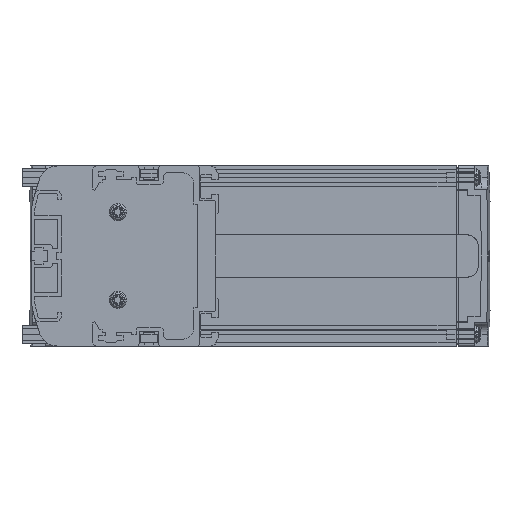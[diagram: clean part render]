
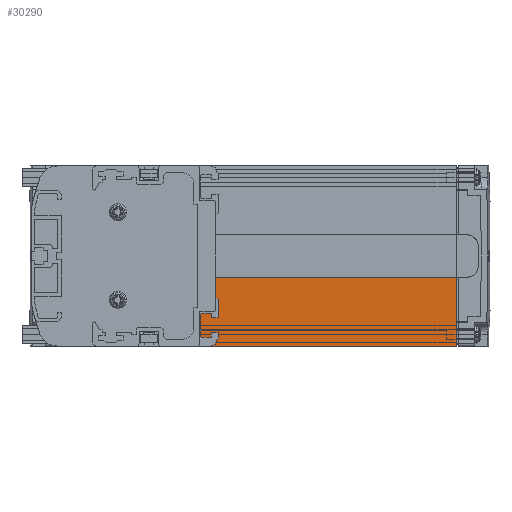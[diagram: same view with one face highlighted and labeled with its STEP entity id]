
A CAD part, left-side view. The second image highlights one B-rep face of the part: STEP entity #30290.
In plain terms, the highlighted planar face has unit normal (-1, 0, 0).
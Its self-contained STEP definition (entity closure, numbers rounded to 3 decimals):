
#3525=DIRECTION('',(0.,0.,1.));
#3526=VECTOR('',#3525,13.9);
#3527=CARTESIAN_POINT('',(3.,1.,-23.));
#3528=LINE('',#3527,#3526);
#4169=CARTESIAN_POINT('',(3.,2.,-23.));
#4170=DIRECTION('',(-1.,0.,0.));
#4171=DIRECTION('',(0.,0.,-1.));
#4172=AXIS2_PLACEMENT_3D('',#4169,#4170,#4171);
#4182=DIRECTION('',(0.,0.,1.));
#4183=VECTOR('',#4182,29.9);
#4184=CARTESIAN_POINT('',(3.,-103.,-39.));
#4185=LINE('',#4184,#4183);
#4202=DIRECTION('',(0.,1.,0.));
#4203=VECTOR('',#4202,104.);
#4204=CARTESIAN_POINT('',(3.,-103.,-9.1));
#4205=LINE('',#4204,#4203);
#8468=DIRECTION('',(0.,1.,0.));
#8469=VECTOR('',#8468,112.);
#8470=CARTESIAN_POINT('',(3.,-103.,-39.));
#8471=LINE('',#8470,#8469);
#9663=CARTESIAN_POINT('',(3.,9.,-38.));
#9664=DIRECTION('',(-1.,0.,0.));
#9665=DIRECTION('',(0.,0.,-1.));
#9666=AXIS2_PLACEMENT_3D('',#9663,#9664,#9665);
#9676=DIRECTION('',(0.,0.,-1.));
#9677=VECTOR('',#9676,14.);
#9678=CARTESIAN_POINT('',(3.,8.,-24.));
#9679=LINE('',#9678,#9677);
#9680=DIRECTION('',(0.,1.,0.));
#9681=VECTOR('',#9680,6.);
#9682=CARTESIAN_POINT('',(3.,2.,-24.));
#9683=LINE('',#9682,#9681);
#19714=CARTESIAN_POINT('',(3.,-103.,-39.));
#19715=VERTEX_POINT('',#19714);
#19716=CARTESIAN_POINT('',(3.,-103.,-9.1));
#19717=VERTEX_POINT('',#19716);
#24107=CARTESIAN_POINT('',(3.,1.,-23.));
#24108=CARTESIAN_POINT('',(3.,1.,-9.1));
#24109=VERTEX_POINT('',#24107);
#24110=VERTEX_POINT('',#24108);
#24155=CARTESIAN_POINT('',(3.,9.,-39.));
#24156=CARTESIAN_POINT('',(3.,8.,-38.));
#24157=VERTEX_POINT('',#24155);
#24158=VERTEX_POINT('',#24156);
#24159=CARTESIAN_POINT('',(3.,8.,-24.));
#24160=VERTEX_POINT('',#24159);
#24161=CARTESIAN_POINT('',(3.,2.,-24.));
#24162=VERTEX_POINT('',#24161);
#30269=CARTESIAN_POINT('',(3.,-18.,-24.05));
#30270=DIRECTION('',(1.,0.,0.));
#30271=DIRECTION('',(0.,0.,-1.));
#30272=AXIS2_PLACEMENT_3D('',#30269,#30270,#30271);
#30273=PLANE('',#30272);
#30274=ORIENTED_EDGE('',*,*,#27705,.T.);
#30276=ORIENTED_EDGE('',*,*,#30275,.F.);
#30278=ORIENTED_EDGE('',*,*,#30277,.F.);
#30280=ORIENTED_EDGE('',*,*,#30279,.T.);
#30282=ORIENTED_EDGE('',*,*,#30281,.T.);
#30284=ORIENTED_EDGE('',*,*,#30283,.F.);
#30286=ORIENTED_EDGE('',*,*,#30285,.F.);
#30287=ORIENTED_EDGE('',*,*,#30260,.T.);
#30288=EDGE_LOOP('',(#30274,#30276,#30278,#30280,#30282,#30284,#30286,#30287));
#30289=FACE_OUTER_BOUND('',#30288,.F.);
#30290=ADVANCED_FACE('',(#30289),#30273,.F.);
#4173=CIRCLE('',#4172,1.);
#9667=CIRCLE('',#9666,1.);
#27705=EDGE_CURVE('',#24109,#24110,#3528,.T.);
#30260=EDGE_CURVE('',#24162,#24109,#4173,.T.);
#30275=EDGE_CURVE('',#19717,#24110,#4205,.T.);
#30277=EDGE_CURVE('',#19715,#19717,#4185,.T.);
#30279=EDGE_CURVE('',#19715,#24157,#8471,.T.);
#30281=EDGE_CURVE('',#24157,#24158,#9667,.T.);
#30283=EDGE_CURVE('',#24160,#24158,#9679,.T.);
#30285=EDGE_CURVE('',#24162,#24160,#9683,.T.);
